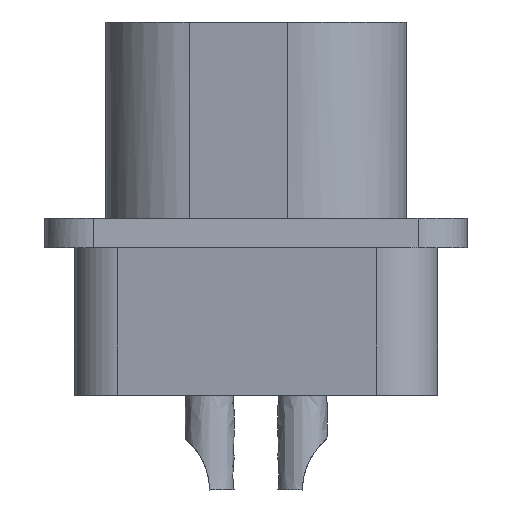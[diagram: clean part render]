
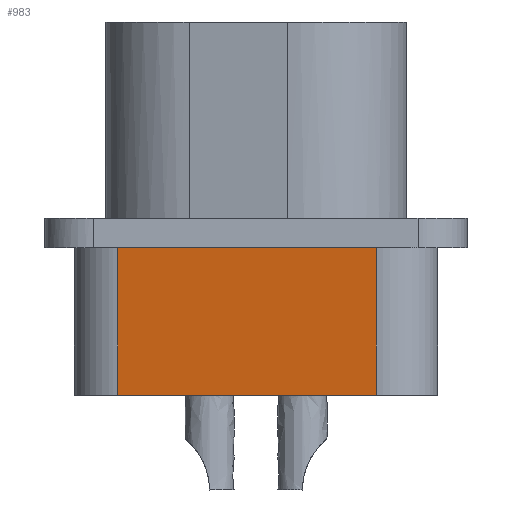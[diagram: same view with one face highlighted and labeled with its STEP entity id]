
A CAD part, left-side view. The second image highlights one B-rep face of the part: STEP entity #983.
In plain terms, the highlighted free-form (B-spline) face has degree [1, 1] with [2, 2] control points.
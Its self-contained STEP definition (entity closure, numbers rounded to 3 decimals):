
#917=CARTESIAN_POINT('V15',(-8.383,-0.487,
   0.0));
#918=VERTEX_POINT('V15',#917);
#933=CARTESIAN_POINT('V22',(-8.383,-0.487,
   -4.5));
#934=VERTEX_POINT('V22',#933);
#948=CARTESIAN_POINT('E24',(-8.383,-0.487,
   0.0));
#949=CARTESIAN_POINT('E24',(-8.383,-0.487,
   -4.5));
#950=QUASI_UNIFORM_CURVE('E24',1,(#948,#949),.POLYLINE_FORM.,.F.,.U.
   );
#951=EDGE_CURVE('E24',#918,#934,#950,.T.);
#956=CARTESIAN_POINT('F4',(-9.776,-8.387,0.0)
   );
#957=CARTESIAN_POINT('F4',(-8.383,-0.487,0.0)
   );
#958=CARTESIAN_POINT('F4',(-9.776,-8.387,
   -4.5));
#959=CARTESIAN_POINT('F4',(-8.383,-0.487,
   -4.5));
#960=B_SPLINE_SURFACE_WITH_KNOTS('F4',1,1,((#956,#958),(#957,#959))
,.PLANE_SURF.,.F.,.F.,.U.,(2,2),(2,2),(0.0,1.783),(
   0.0,1.0),.UNSPECIFIED.);
#961=CARTESIAN_POINT('V16',(-9.776,-8.387,
   0.0));
#962=VERTEX_POINT('V16',#961);
#963=CARTESIAN_POINT('E15',(-8.383,-0.487,
   0.0));
#964=CARTESIAN_POINT('E15',(-9.776,-8.387,
   0.0));
#965=B_SPLINE_CURVE_WITH_KNOTS('E15',1,(#963,#964),.POLYLINE_FORM.,
   .F.,.U.,(2,2),(0.0,1.783),.UNSPECIFIED.);
#966=EDGE_CURVE('E15',#918,#962,#965,.T.);
#967=ORIENTED_EDGE('E15',*,*,#966,.F.);
#968=ORIENTED_EDGE('F5',*,*,#951,.T.);
#969=CARTESIAN_POINT('V21',(-9.776,-8.387,
   -4.5));
#970=VERTEX_POINT('V21',#969);
#971=CARTESIAN_POINT('E25',(-8.383,-0.487,
   -4.5));
#972=CARTESIAN_POINT('E25',(-9.776,-8.387,
   -4.5));
#973=B_SPLINE_CURVE_WITH_KNOTS('E25',1,(#971,#972),.POLYLINE_FORM.,
   .F.,.U.,(2,2),(0.0,1.783),.UNSPECIFIED.);
#974=EDGE_CURVE('E25',#934,#970,#973,.T.);
#975=ORIENTED_EDGE('E25',*,*,#974,.T.);
#976=CARTESIAN_POINT('E22',(-9.776,-8.387,
   0.0));
#977=CARTESIAN_POINT('E22',(-9.776,-8.387,
   -4.5));
#978=B_SPLINE_CURVE_WITH_KNOTS('E22',1,(#976,#977),.POLYLINE_FORM.,
   .F.,.U.,(2,2),(0.0,1.18),.UNSPECIFIED.);
#979=EDGE_CURVE('E22',#962,#970,#978,.T.);
#980=ORIENTED_EDGE('E22',*,*,#979,.F.);
#981=EDGE_LOOP('F4',(#967,#968,#975,#980));
#982=FACE_OUTER_BOUND('F4',#981,.T.);
#983=ADVANCED_FACE('F4',(#982),#960,.T.);
